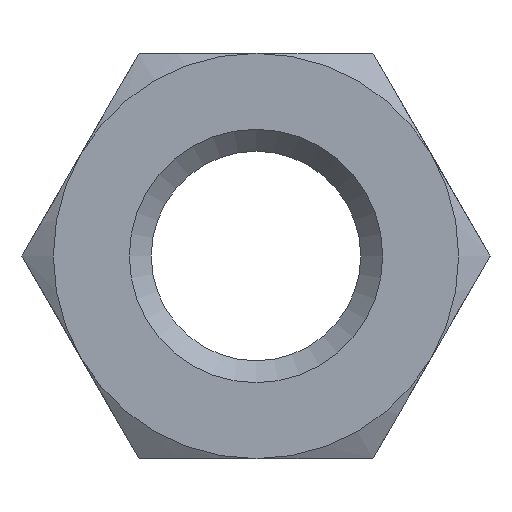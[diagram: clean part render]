
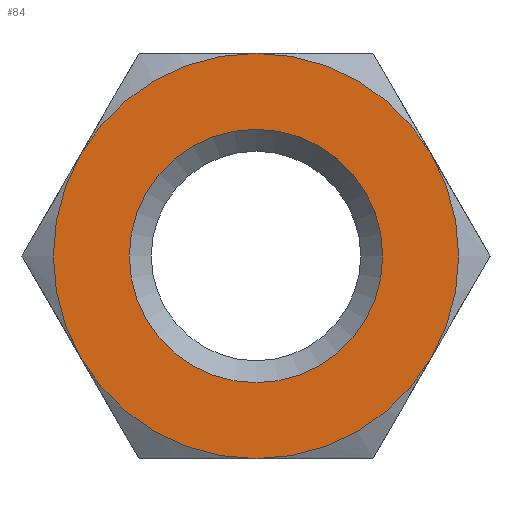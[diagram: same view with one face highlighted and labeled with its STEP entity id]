
A CAD part, left-side view. The second image highlights one B-rep face of the part: STEP entity #84.
In plain terms, the highlighted planar face has unit normal (-1, 0, 0).
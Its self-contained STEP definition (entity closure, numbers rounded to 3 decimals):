
#84 = ADVANCED_FACE( '', ( #118, #119 ), #120, .F. );
#118 = FACE_OUTER_BOUND( '', #169, .T. );
#119 = FACE_BOUND( '', #170, .T. );
#120 = PLANE( '', #171 );
#169 = EDGE_LOOP( '', ( #268, #269, #270, #271, #272, #273 ) );
#170 = EDGE_LOOP( '', ( #274 ) );
#171 = AXIS2_PLACEMENT_3D( '', #275, #276, #277 );
#268 = ORIENTED_EDGE( '', *, *, #391, .F. );
#269 = ORIENTED_EDGE( '', *, *, #392, .F. );
#270 = ORIENTED_EDGE( '', *, *, #393, .F. );
#271 = ORIENTED_EDGE( '', *, *, #389, .F. );
#272 = ORIENTED_EDGE( '', *, *, #387, .F. );
#273 = ORIENTED_EDGE( '', *, *, #388, .F. );
#274 = ORIENTED_EDGE( '', *, *, #394, .T. );
#275 = CARTESIAN_POINT( '', ( 0., 0., 0. ) );
#276 = DIRECTION( '', ( 1., 0., 0. ) );
#277 = DIRECTION( '', ( 0., 0., -1. ) );
#387 = EDGE_CURVE( '', #417, #435, #451, .T. );
#388 = EDGE_CURVE( '', #426, #417, #452, .T. );
#389 = EDGE_CURVE( '', #435, #453, #454, .T. );
#391 = EDGE_CURVE( '', #456, #426, #457, .T. );
#392 = EDGE_CURVE( '', #458, #456, #459, .T. );
#393 = EDGE_CURVE( '', #453, #458, #460, .T. );
#394 = EDGE_CURVE( '', #461, #461, #462, .T. );
#417 = VERTEX_POINT( '', #503 );
#426 = VERTEX_POINT( '', #531 );
#435 = VERTEX_POINT( '', #557 );
#451 = CIRCLE( '', #589, 4. );
#452 = CIRCLE( '', #590, 4. );
#453 = VERTEX_POINT( '', #591 );
#454 = CIRCLE( '', #592, 4. );
#456 = VERTEX_POINT( '', #599 );
#457 = CIRCLE( '', #600, 4. );
#458 = VERTEX_POINT( '', #601 );
#459 = CIRCLE( '', #602, 4. );
#460 = CIRCLE( '', #603, 4. );
#461 = VERTEX_POINT( '', #604 );
#462 = CIRCLE( '', #605, 2.5 );
#503 = CARTESIAN_POINT( '', ( 0., 0., 4. ) );
#531 = CARTESIAN_POINT( '', ( 0., 3.464, 2. ) );
#557 = CARTESIAN_POINT( '', ( 0., -3.464, 2. ) );
#589 = AXIS2_PLACEMENT_3D( '', #691, #692, #693 );
#590 = AXIS2_PLACEMENT_3D( '', #694, #695, #696 );
#591 = CARTESIAN_POINT( '', ( 0., -3.464, -2. ) );
#592 = AXIS2_PLACEMENT_3D( '', #697, #698, #699 );
#599 = CARTESIAN_POINT( '', ( 0., 3.464, -2. ) );
#600 = AXIS2_PLACEMENT_3D( '', #700, #701, #702 );
#601 = CARTESIAN_POINT( '', ( 0., 0., -4. ) );
#602 = AXIS2_PLACEMENT_3D( '', #703, #704, #705 );
#603 = AXIS2_PLACEMENT_3D( '', #706, #707, #708 );
#604 = CARTESIAN_POINT( '', ( 0., 0., -2.5 ) );
#605 = AXIS2_PLACEMENT_3D( '', #709, #710, #711 );
#691 = CARTESIAN_POINT( '', ( 0., 0., 0. ) );
#692 = DIRECTION( '', ( 1., 0., 0. ) );
#693 = DIRECTION( '', ( 0., 0., -1. ) );
#694 = CARTESIAN_POINT( '', ( 0., 0., 0. ) );
#695 = DIRECTION( '', ( 1., 0., 0. ) );
#696 = DIRECTION( '', ( 0., 0., -1. ) );
#697 = CARTESIAN_POINT( '', ( 0., 0., 0. ) );
#698 = DIRECTION( '', ( 1., 0., 0. ) );
#699 = DIRECTION( '', ( 0., 0., -1. ) );
#700 = CARTESIAN_POINT( '', ( 0., 0., 0. ) );
#701 = DIRECTION( '', ( 1., 0., 0. ) );
#702 = DIRECTION( '', ( 0., 0., -1. ) );
#703 = CARTESIAN_POINT( '', ( 0., 0., 0. ) );
#704 = DIRECTION( '', ( 1., 0., 0. ) );
#705 = DIRECTION( '', ( 0., 0., -1. ) );
#706 = CARTESIAN_POINT( '', ( 0., 0., 0. ) );
#707 = DIRECTION( '', ( 1., 0., 0. ) );
#708 = DIRECTION( '', ( 0., 0., -1. ) );
#709 = CARTESIAN_POINT( '', ( 0., 0., 0. ) );
#710 = DIRECTION( '', ( 1., 0., 0. ) );
#711 = DIRECTION( '', ( 0., 0., -1. ) );
